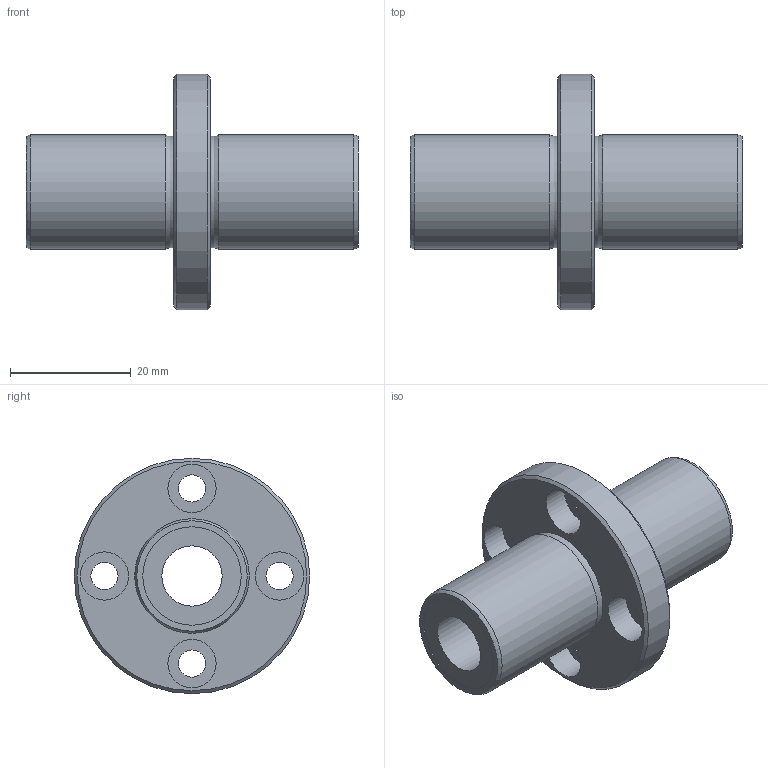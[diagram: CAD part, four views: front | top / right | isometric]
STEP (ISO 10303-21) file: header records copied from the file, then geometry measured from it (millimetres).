
FILE_DESCRIPTION((''),'2;1');
FILE_NAME('D:\製品 (図面)\カタログ用3D\リニアベアリング関連\STEP形式\LFDC\LFDC10.stp','2010-06-03T09:26:44',('Tsuchiya'),(''),'Autodesk Inventor 10','Autodesk Inventor 10','');
FILE_SCHEMA(('AUTOMOTIVE_DESIGN { 1 0 10303 214 1 1 1 1 }'));
Length unit declared in the file: millimetre
Products named in the file (1): LFDC10
Bounding box: 55 x 39 x 39 mm (x, y, z)
Volume: 15661 mm3; surface area: 7950.2 mm2
Topology: 1 solids, 1 shells, 30 faces, 54 edges, 34 vertices
Faces by surface type: cylinder 14, plane 10, cone 2, torus 2, bspline 2
Full cylindrical faces by diameter (mm): 4.5 x4, 8 x4, 10 x1, 16.3 x2, 19 x2, 39 x1
Entity records: 803 total; most frequent: CARTESIAN_POINT 223, DIRECTION 126, ORIENTED_EDGE 68, EDGE_LOOP 68, AXIS2_PLACEMENT_3D 63, FACE_BOUND 38, VERTEX_POINT 34, CIRCLE 34
